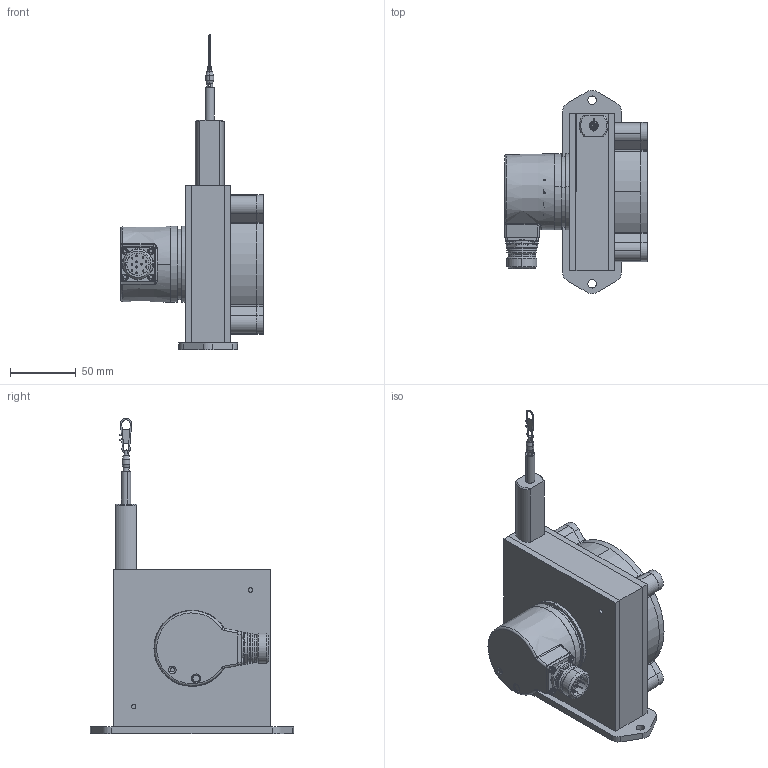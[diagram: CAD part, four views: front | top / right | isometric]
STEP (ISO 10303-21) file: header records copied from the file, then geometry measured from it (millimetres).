
FILE_DESCRIPTION (( 'STEP AP214' ), '1' );
FILE_NAME ('D8.4C1.0600.6324.G123.STEP', '2009-05-12T08:13:53', ( 'admin' ), ( 'Fritz Kübler GmbH' ), 'SwSTEP 2.0', 'SolidWorks 2009', '' );
FILE_SCHEMA (( 'AUTOMOTIVE_DESIGN' ));
Length unit declared in the file: millimetre
Products named in the file (1): D8.4C1.0600.6324.G123
Bounding box: 109 x 155 x 240.32 mm (x, y, z)
Volume: 388210.1 mm3; surface area: 199077.6 mm2
Topology: 33 solids, 35 shells, 1320 faces, 3163 edges, 1939 vertices
Faces by surface type: cylinder 579, plane 340, cone 221, torus 109, bspline 42, sphere 29
Entity records: 55931 total; most frequent: CARTESIAN_POINT 9941, DIRECTION 6991, ORIENTED_EDGE 6170, EDGE_CURVE 3085, AXIS2_PLACEMENT_3D 2902, VERTEX_POINT 1935, CIRCLE 1623, EDGE_LOOP 1546
